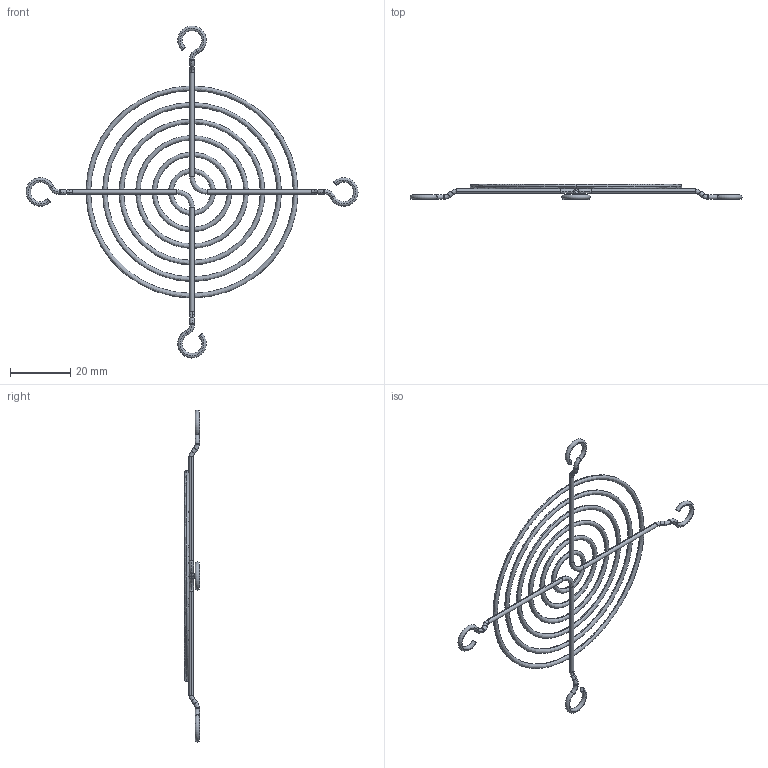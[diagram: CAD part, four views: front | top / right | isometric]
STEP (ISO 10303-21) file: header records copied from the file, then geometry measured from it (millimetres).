
FILE_DESCRIPTION (( 'STEP AP203' ), '1' );
FILE_NAME ('GRL-AP001P.STEP', '2013-07-18T08:50:52', ( 'mijlee' ), ( '' ), 'SwSTEP 2.0', 'SolidWorks 2012', '' );
FILE_SCHEMA (( 'CONFIG_CONTROL_DESIGN' ));
Length unit declared in the file: millimetre
Products named in the file (1): GRL-AP001P
Bounding box: 110.5 x 5 x 110.5 mm (x, y, z)
Volume: 1857.7 mm3; surface area: 4961.2 mm2
Topology: 8 solids, 8 shells, 88 faces, 180 edges, 96 vertices
Faces by surface type: bspline 60, cylinder 24, plane 4
Entity records: 5303 total; most frequent: CARTESIAN_POINT 3577, ORIENTED_EDGE 360, DIRECTION 346, EDGE_CURVE 180, AXIS2_PLACEMENT_3D 161, CIRCLE 132, VERTEX_POINT 96, ADVANCED_FACE 88
